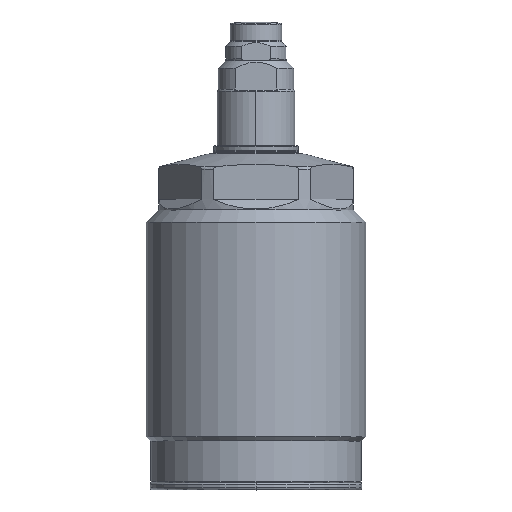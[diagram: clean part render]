
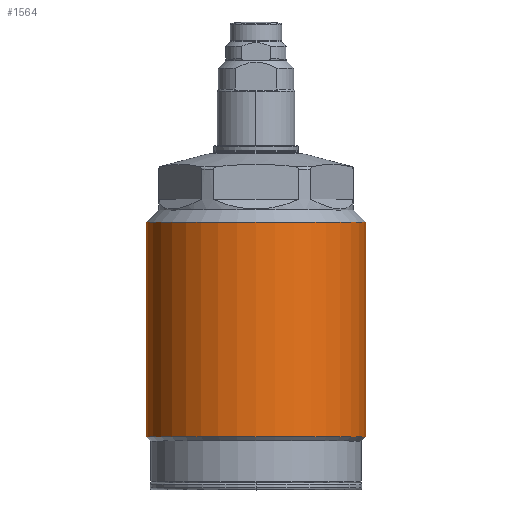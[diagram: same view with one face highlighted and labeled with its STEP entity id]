
A CAD part, top view. The second image highlights one B-rep face of the part: STEP entity #1564.
In plain terms, the highlighted cylindrical face has radius 22.5 mm (diameter 45 mm), a partial arc.
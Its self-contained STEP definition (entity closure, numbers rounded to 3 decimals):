
#675=CYLINDRICAL_SURFACE('',#6840,22.5);
#971=LINE('',#10655,#1309);
#972=LINE('',#10659,#1310);
#1309=VECTOR('',#8435,1.);
#1310=VECTOR('',#8438,1.);
#1564=ADVANCED_FACE('',(#2056),#675,.T.);
#2056=FACE_OUTER_BOUND('',#2468,.T.);
#2468=EDGE_LOOP('',(#3459,#3460,#3461,#3462));
#3459=ORIENTED_EDGE('',*,*,#5531,.T.);
#3460=ORIENTED_EDGE('',*,*,#5533,.T.);
#3461=ORIENTED_EDGE('',*,*,#5534,.F.);
#3462=ORIENTED_EDGE('',*,*,#5535,.F.);
#4875=VERTEX_POINT('',#10650);
#4876=VERTEX_POINT('',#10652);
#4877=VERTEX_POINT('',#10656);
#4878=VERTEX_POINT('',#10658);
#5531=EDGE_CURVE('',#4876,#4875,#6161,.T.);
#5533=EDGE_CURVE('',#4875,#4877,#971,.T.);
#5534=EDGE_CURVE('',#4878,#4877,#6162,.T.);
#5535=EDGE_CURVE('',#4876,#4878,#972,.T.);
#6161=CIRCLE('',#6837,22.5);
#6162=CIRCLE('',#6839,22.5);
#6837=AXIS2_PLACEMENT_3D('',#10651,#8430,#8431);
#6839=AXIS2_PLACEMENT_3D('',#10657,#8436,#8437);
#6840=AXIS2_PLACEMENT_3D('',#10660,#8439,#8440);
#8430=DIRECTION('',(0.,-1.,0.));
#8431=DIRECTION('',(1.,0.,0.));
#8435=DIRECTION('',(0.,-1.,0.));
#8436=DIRECTION('',(0.,-1.,0.));
#8437=DIRECTION('',(1.,0.,0.));
#8438=DIRECTION('',(0.,-1.,0.));
#8439=DIRECTION('',(0.,-1.,0.));
#8440=DIRECTION('',(1.,0.,0.));
#10650=CARTESIAN_POINT('',(-22.5,62.023,0.));
#10651=CARTESIAN_POINT('',(0.,62.023,0.));
#10652=CARTESIAN_POINT('',(22.5,62.023,0.));
#10655=CARTESIAN_POINT('',(-22.5,8.923,0.));
#10656=CARTESIAN_POINT('',(-22.5,18.023,0.));
#10657=CARTESIAN_POINT('',(0.,18.023,0.));
#10658=CARTESIAN_POINT('',(22.5,18.023,0.));
#10659=CARTESIAN_POINT('',(22.5,8.923,0.));
#10660=CARTESIAN_POINT('',(0.,8.923,0.));
